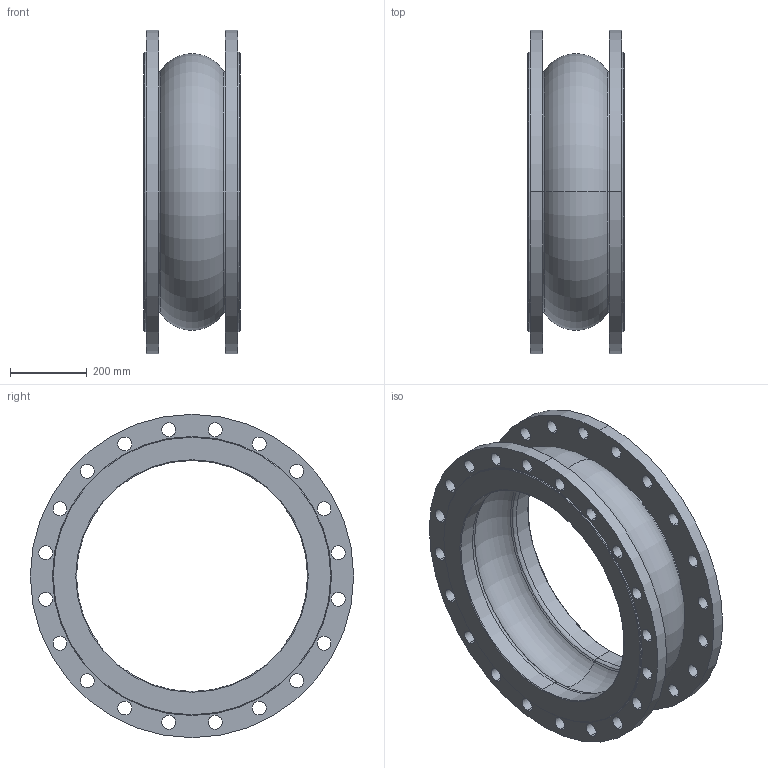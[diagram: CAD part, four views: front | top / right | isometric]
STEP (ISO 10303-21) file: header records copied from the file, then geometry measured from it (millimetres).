
FILE_DESCRIPTION (( 'STEP AP203' ), '1' );
FILE_NAME ('F8_PN16_DN600.STEP', '2012-10-31T08:47:06', ( 'luca.saino' ), ( 'Hewlett-Packard Company' ), 'SwSTEP 2.0', 'SolidWorks 2012', '' );
FILE_SCHEMA (( 'CONFIG_CONTROL_DESIGN' ));
Length unit declared in the file: millimetre
Products named in the file (1): F8_PN16_DN600
Bounding box: 250 x 840 x 840 mm (x, y, z)
Volume: 24357717.6 mm3; surface area: 2335943.5 mm2
Topology: 1 solids, 1 shells, 122 faces, 324 edges, 208 vertices
Faces by surface type: cylinder 92, torus 16, cone 8, plane 6
Entity records: 4141 total; most frequent: DIRECTION 794, CARTESIAN_POINT 655, ORIENTED_EDGE 648, AXIS2_PLACEMENT_3D 347, EDGE_CURVE 324, CIRCLE 224, EDGE_LOOP 208, VERTEX_POINT 208
